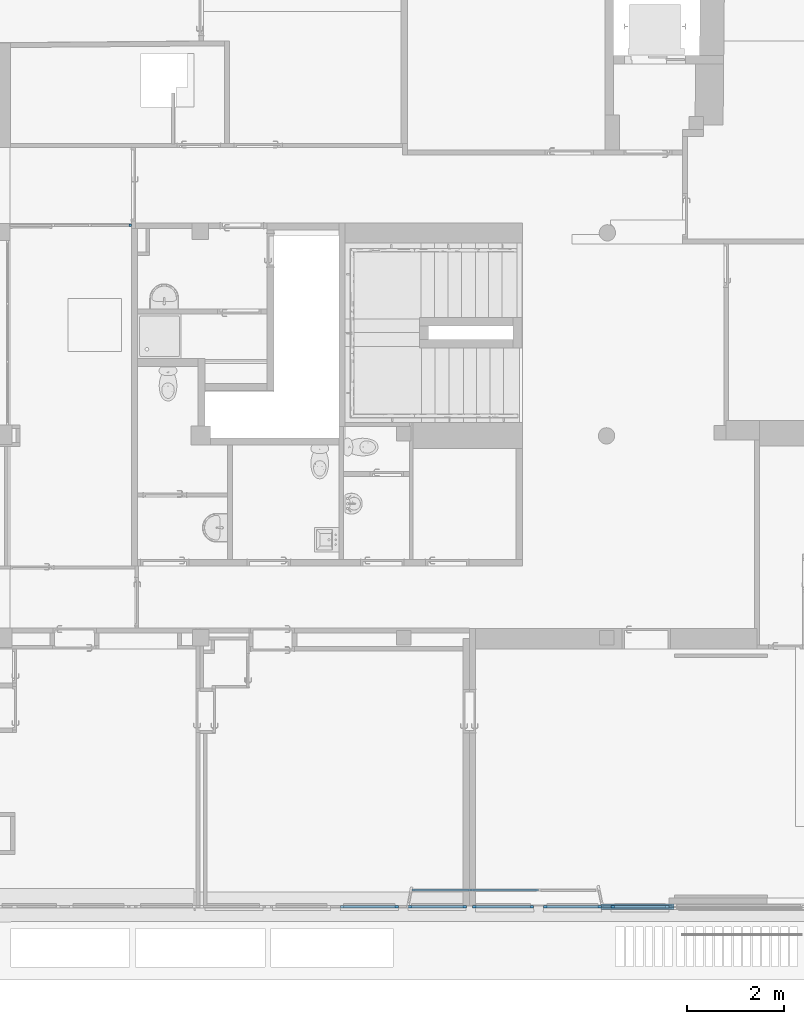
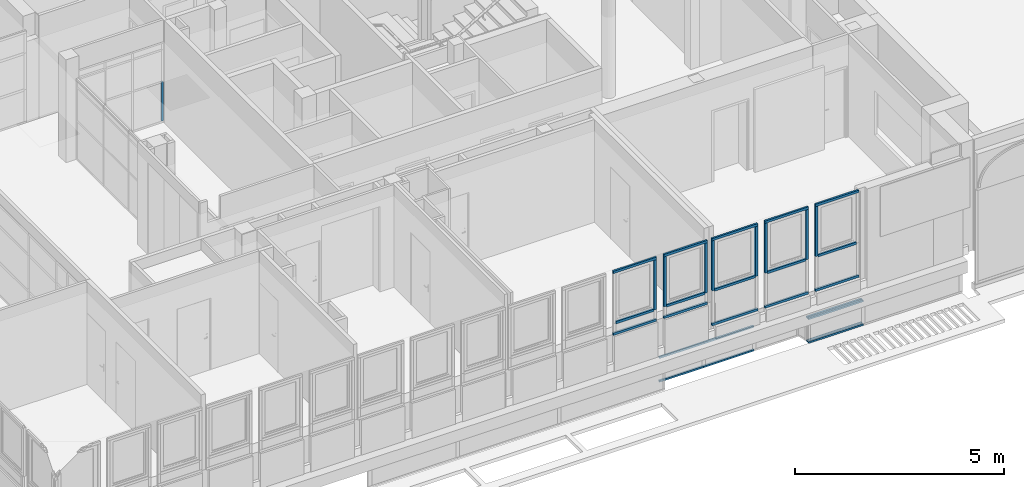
# One storey, part 8 of 97: 34 members, 10 elements without a shape of their own.
"""IFC4 building model written with IfcOpenShell, lengths in metres."""

from ifc_helpers import new_model, entity, si_unit, converted_unit, derived_unit, direction, frame, origin, place, context, subcontext, project, spatial, indexed_curve, outline, extrude, source, transform, mapped, material, type_object, type_shapes, element, aggregate, save


model = new_model("IFC4")

# Units and contexts
model_context = context("Model", 3, precision=1e-05, world=origin(), true_north=direction((6.12303176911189e-17, 1.0)))
body_context = subcontext(model_context, "Body", "Model", "MODEL_VIEW")
ifc_project = project(units=[si_unit("LENGTHUNIT", "METRE"), si_unit("AREAUNIT", "SQUARE_METRE"), si_unit("VOLUMEUNIT", "CUBIC_METRE"), converted_unit("PLANEANGLEUNIT", "DEGREE", entity("IfcRatioMeasure", 0.0174532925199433), si_unit("PLANEANGLEUNIT", "RADIAN"), dimensions=[0, 0, 0, 0, 0, 0, 0]), si_unit("MASSUNIT", "GRAM", prefix="KILO"), derived_unit("MASSDENSITYUNIT", [(si_unit("MASSUNIT", "GRAM", prefix="KILO"), 1), (si_unit("LENGTHUNIT", "METRE"), -3)]), derived_unit("MOMENTOFINERTIAUNIT", [(si_unit("LENGTHUNIT", "METRE"), 4)]), si_unit("TIMEUNIT", "SECOND"), si_unit("FREQUENCYUNIT", "HERTZ"), si_unit("THERMODYNAMICTEMPERATUREUNIT", "DEGREE_CELSIUS"), derived_unit("THERMALTRANSMITTANCEUNIT", [(si_unit("MASSUNIT", "GRAM", prefix="KILO"), 1), (si_unit("THERMODYNAMICTEMPERATUREUNIT", "KELVIN"), -1), (si_unit("TIMEUNIT", "SECOND"), -3)]), derived_unit("VOLUMETRICFLOWRATEUNIT", [(si_unit("LENGTHUNIT", "METRE"), 3), (si_unit("TIMEUNIT", "SECOND"), -1)]), si_unit("ELECTRICCURRENTUNIT", "AMPERE"), si_unit("ELECTRICVOLTAGEUNIT", "VOLT"), si_unit("POWERUNIT", "WATT"), si_unit("FORCEUNIT", "NEWTON", prefix="KILO"), si_unit("ILLUMINANCEUNIT", "LUX"), si_unit("LUMINOUSFLUXUNIT", "LUMEN"), si_unit("LUMINOUSINTENSITYUNIT", "CANDELA"), derived_unit("USERDEFINED", [(si_unit("MASSUNIT", "GRAM", prefix="KILO"), -1), (si_unit("LENGTHUNIT", "METRE"), -2), (si_unit("TIMEUNIT", "SECOND"), 3), (si_unit("LUMINOUSFLUXUNIT", "LUMEN"), 1)]), derived_unit("LINEARVELOCITYUNIT", [(si_unit("LENGTHUNIT", "METRE"), 1), (si_unit("TIMEUNIT", "SECOND"), -1)]), si_unit("PRESSUREUNIT", "PASCAL"), derived_unit("USERDEFINED", [(si_unit("LENGTHUNIT", "METRE"), -2), (si_unit("MASSUNIT", "GRAM", prefix="KILO"), 1), (si_unit("TIMEUNIT", "SECOND"), -2)]), derived_unit("LINEARFORCEUNIT", [(si_unit("MASSUNIT", "GRAM", prefix="KILO"), 1), (si_unit("LENGTHUNIT", "METRE"), 1), (si_unit("TIMEUNIT", "SECOND"), -2), (si_unit("LENGTHUNIT", "METRE"), -1)]), derived_unit("PLANARFORCEUNIT", [(si_unit("MASSUNIT", "GRAM", prefix="KILO"), 1), (si_unit("LENGTHUNIT", "METRE"), 1), (si_unit("TIMEUNIT", "SECOND"), -2), (si_unit("LENGTHUNIT", "METRE"), -2)])], contexts=[model_context])

# Site, building, storey
site_placement = place(None, origin())
site = spatial("IfcSite", under=ifc_project, at=site_placement, Name="Default", CompositionType="ELEMENT")
building_placement = place(site_placement, origin())
building = spatial("IfcBuilding", under=site, at=building_placement, Name="HOTEL CONSULAIRE BOULOGNE SUR MER", CompositionType="ELEMENT")
storey_placement = place(building_placement, frame((0.0, 0.0, 3.62152697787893)))
storey = spatial("IfcBuildingStorey", under=building, at=storey_placement, Name="Niveau 1", CompositionType="ELEMENT", Elevation=3.62152697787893)

# Curtain wall, member
curtain_wall_type = type_object("IfcCurtainWallType", Name="Mur-rideau:Simple panneau", PredefinedType="NOTDEFINED")
curtain_wall_1_placement = place(storey_placement, frame((0.0, 0.0, -3.62152697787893)))
curtain_wall_1 = element("IfcCurtainWall", 1, at=curtain_wall_1_placement, inside=storey, type_object=curtain_wall_type, Name="Mur-rideau:Simple panneau", ObjectType="Mur-rideau:Simple panneau", PredefinedType="NOTDEFINED")
ifc_material = material(Name="PVC - Blanc", Category="Plastique")
member_type_1 = type_object("IfcMemberType", Name="Meneau rectangulaire:50 x 25mm", PredefinedType="MULLION", material=ifc_material)
shared_shape_1 = source(origin(), body_context, "Body", "SweptSolid", [
    extrude(outline(indexed_curve([(-0.025, -0.025), (0.025, -0.025), (0.025, 0.025), (-0.025, 0.025), (-0.025, -0.025)], self_intersect=False)), frame((-0.025, -0.025, -1.517), z_axis=(0.0, 0.0, 1.0), x_axis=(0.0, -1.0, 0.0)), (0.0, 0.0, 1.0), 1.517),
])
type_shapes(member_type_1, [shared_shape_1])
member_1_placement = place(storey_placement, frame((7.04517677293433, -29.5980671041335, -1.3055269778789), z_axis=(-1.0, 0.0, 0.0), x_axis=(0.0, 0.0, -1.0)))
member_1 = element("IfcMember", 2, at=member_1_placement, type_object=member_type_1, material=ifc_material, Name="Meneau rectangulaire:50 x 25mm", ObjectType="Meneau rectangulaire:50 x 25mm", PredefinedType="MULLION", context=body_context, shape_type="MappedRepresentation", body=[
    mapped(shared_shape_1, transform((0.0, 0.0, 0.0), scale=1.0)),
])

curtain_wall_2_placement = place(storey_placement, frame((0.0, 0.0, -3.62152697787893)))
curtain_wall_2 = element("IfcCurtainWall", 3, at=curtain_wall_2_placement, inside=storey, type_object=curtain_wall_type, Name="Mur-rideau:Simple panneau", ObjectType="Mur-rideau:Simple panneau", PredefinedType="NOTDEFINED")
member_2_placement = place(storey_placement, frame((7.04517677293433, -29.6370671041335, -1.3055269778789), z_axis=(-1.0, 0.0, 0.0), x_axis=(0.0, 0.0, -1.0)))
member_2 = element("IfcMember", 4, at=member_2_placement, type_object=member_type_1, material=ifc_material, Name="Meneau rectangulaire:50 x 25mm", ObjectType="Meneau rectangulaire:50 x 25mm", PredefinedType="MULLION", context=body_context, shape_type="MappedRepresentation", body=[
    mapped(shared_shape_1, transform((0.0, 0.0, 0.0), scale=1.0)),
])

curtain_wall_3_placement = place(storey_placement, frame((0.0, 0.0, -3.62152697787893)))
curtain_wall_3 = element("IfcCurtainWall", 5, at=curtain_wall_3_placement, inside=storey, type_object=curtain_wall_type, Name="Mur-rideau:Simple panneau", ObjectType="Mur-rideau:Simple panneau", PredefinedType="NOTDEFINED")
member_3_placement = place(storey_placement, frame((7.04517677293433, -29.5723138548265, -1.3055269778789), z_axis=(-1.0, 0.0, 0.0), x_axis=(0.0, 0.0, -1.0)))
member_3 = element("IfcMember", 6, at=member_3_placement, type_object=member_type_1, material=ifc_material, Name="Meneau rectangulaire:50 x 25mm", ObjectType="Meneau rectangulaire:50 x 25mm", PredefinedType="MULLION", context=body_context, shape_type="MappedRepresentation", body=[
    mapped(shared_shape_1, transform((0.0, 0.0, 0.0), scale=1.0)),
])

# Member
member_type_2 = type_object("IfcMemberType", Name="Meneau rectangulaire:50 x 25mm", PredefinedType="MULLION", material=ifc_material)
shared_shape_2 = source(origin(), body_context, "Body", "SweptSolid", [
    extrude(outline(indexed_curve([(-0.025, -0.025), (0.025, -0.025), (0.025, 0.025), (-0.025, 0.025), (-0.025, -0.025)], self_intersect=False)), frame((-0.025, -0.025, -1.517), z_axis=(0.0, 0.0, 1.0), x_axis=(0.0, -1.0, 0.0)), (0.0, 0.0, 1.0), 1.517),
])
type_shapes(member_type_2, [shared_shape_2])
member_4_placement = place(storey_placement, frame((8.56217677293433, -29.5980671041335, -0.56300000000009), z_axis=(1.0, 0.0, 0.0), x_axis=(0.0, 0.0, 1.0)))
member_4 = element("IfcMember", 7, at=member_4_placement, type_object=member_type_2, material=ifc_material, Name="Meneau rectangulaire:50 x 25mm", ObjectType="Meneau rectangulaire:50 x 25mm", PredefinedType="MULLION", context=body_context, shape_type="MappedRepresentation", body=[
    mapped(shared_shape_2, transform((0.0, 0.0, 0.0), scale=1.0)),
])

aggregate(curtain_wall_1, [member_1, member_4])

member_5_placement = place(storey_placement, frame((8.56217677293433, -29.6370671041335, -0.56300000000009), z_axis=(1.0, 0.0, 0.0), x_axis=(0.0, 0.0, 1.0)))
member_5 = element("IfcMember", 8, at=member_5_placement, type_object=member_type_2, material=ifc_material, Name="Meneau rectangulaire:50 x 25mm", ObjectType="Meneau rectangulaire:50 x 25mm", PredefinedType="MULLION", context=body_context, shape_type="MappedRepresentation", body=[
    mapped(shared_shape_2, transform((0.0, 0.0, 0.0), scale=1.0)),
])

aggregate(curtain_wall_2, [member_2, member_5])

member_6_placement = place(storey_placement, frame((8.56217677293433, -29.5723138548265, -0.56300000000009), z_axis=(1.0, 0.0, 0.0), x_axis=(0.0, 0.0, 1.0)))
member_6 = element("IfcMember", 9, at=member_6_placement, type_object=member_type_2, material=ifc_material, Name="Meneau rectangulaire:50 x 25mm", ObjectType="Meneau rectangulaire:50 x 25mm", PredefinedType="MULLION", context=body_context, shape_type="MappedRepresentation", body=[
    mapped(shared_shape_2, transform((0.0, 0.0, 0.0), scale=1.0)),
])

aggregate(curtain_wall_3, [member_3, member_6])

# Curtain wall, members
curtain_wall_4_placement = place(storey_placement, frame((0.0, 0.0, -3.62152697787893)))
curtain_wall_4 = element("IfcCurtainWall", 10, at=curtain_wall_4_placement, inside=storey, type_object=curtain_wall_type, Name="Mur-rideau:Simple panneau", ObjectType="Mur-rideau:Simple panneau", PredefinedType="NOTDEFINED")
member_type_3 = type_object("IfcMemberType", Name="Meneau rectangulaire:50 x 25mm", PredefinedType="MULLION", material=ifc_material)
shared_shape_3 = source(origin(), body_context, "Body", "SweptSolid", [
    extrude(outline(indexed_curve([(-0.025, -0.025), (0.025, -0.025), (0.025, 0.025), (-0.025, 0.025), (-0.025, -0.025)], self_intersect=False)), frame((-0.025, -0.025, -1.226), z_axis=(0.0, 0.0, 1.0), x_axis=(0.0, -1.0, 0.0)), (0.0, 0.0, 1.0), 1.226),
])
type_shapes(member_type_3, [shared_shape_3])
member_7_placement = place(storey_placement, frame((3.13741738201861, -29.2557686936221, -1.3055269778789), z_axis=(-1.0, 0.0, 0.0), x_axis=(0.0, 0.0, -1.0)))
member_7 = element("IfcMember", 11, at=member_7_placement, type_object=member_type_3, material=ifc_material, Name="Meneau rectangulaire:50 x 25mm", ObjectType="Meneau rectangulaire:50 x 25mm", PredefinedType="MULLION", context=body_context, shape_type="MappedRepresentation", body=[
    mapped(shared_shape_3, transform((0.0, 0.0, 0.0), scale=1.0)),
])
member_type_4 = type_object("IfcMemberType", Name="Meneau rectangulaire:50 x 25mm", PredefinedType="MULLION", material=ifc_material)
shared_shape_4 = source(origin(), body_context, "Body", "SweptSolid", [
    extrude(outline(indexed_curve([(-0.025, -0.025), (0.025, -0.025), (0.025, 0.025), (-0.025, 0.025), (-0.025, -0.025)], self_intersect=False)), frame((-0.025, -0.025, -1.3947200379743), z_axis=(0.0, 0.0, 1.0), x_axis=(0.0, -1.0, 0.0)), (0.0, 0.0, 1.0), 1.3947200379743),
])
type_shapes(member_type_4, [shared_shape_4])
member_8_placement = place(storey_placement, frame((5.75813741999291, -29.2557686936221, -0.56300000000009), z_axis=(1.0, 0.0, 0.0), x_axis=(0.0, 0.0, 1.0)))
member_8 = element("IfcMember", 12, at=member_8_placement, type_object=member_type_4, material=ifc_material, Name="Meneau rectangulaire:50 x 25mm", ObjectType="Meneau rectangulaire:50 x 25mm", PredefinedType="MULLION", context=body_context, shape_type="MappedRepresentation", body=[
    mapped(shared_shape_4, transform((0.0, 0.0, 0.0), scale=1.0)),
])
member_type_5 = type_object("IfcMemberType", Name="Meneau rectangulaire:50 x 25mm", PredefinedType="MULLION", material=ifc_material)
shared_shape_5 = source(origin(), body_context, "Body", "SweptSolid", [
    extrude(outline(indexed_curve([(-0.025, -0.025), (0.025, -0.025), (0.025, 0.025), (-0.025, 0.025), (-0.025, -0.025)], self_intersect=False)), frame((-0.025, -0.025, -1.3947200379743), z_axis=(0.0, 0.0, 1.0), x_axis=(0.0, -1.0, 0.0)), (0.0, 0.0, 1.0), 1.3947200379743),
])
type_shapes(member_type_5, [shared_shape_5])
member_9_placement = place(storey_placement, frame((4.36341738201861, -29.2557686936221, -1.3055269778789), z_axis=(-1.0, 0.0, 0.0), x_axis=(0.0, 0.0, -1.0)))
member_9 = element("IfcMember", 13, at=member_9_placement, type_object=member_type_5, material=ifc_material, Name="Meneau rectangulaire:50 x 25mm", ObjectType="Meneau rectangulaire:50 x 25mm", PredefinedType="MULLION", context=body_context, shape_type="MappedRepresentation", body=[
    mapped(shared_shape_5, transform((0.0, 0.0, 0.0), scale=1.0)),
])
member_type_6 = type_object("IfcMemberType", Name="Meneau rectangulaire:50 x 25mm", PredefinedType="MULLION", material=ifc_material)
shared_shape_6 = source(origin(), body_context, "Body", "SweptSolid", [
    extrude(outline(indexed_curve([(-0.025, -0.025), (0.025, -0.025), (0.025, 0.025), (-0.025, 0.025), (-0.025, -0.025)], self_intersect=False)), frame((-0.025, -0.025, -1.226), z_axis=(0.0, 0.0, 1.0), x_axis=(0.0, -1.0, 0.0)), (0.0, 0.0, 1.0), 1.226),
])
type_shapes(member_type_6, [shared_shape_6])
member_10_placement = place(storey_placement, frame((4.36341738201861, -29.2557686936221, -0.56300000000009), z_axis=(1.0, 0.0, 0.0), x_axis=(0.0, 0.0, 1.0)))
member_10 = element("IfcMember", 14, at=member_10_placement, type_object=member_type_6, material=ifc_material, Name="Meneau rectangulaire:50 x 25mm", ObjectType="Meneau rectangulaire:50 x 25mm", PredefinedType="MULLION", context=body_context, shape_type="MappedRepresentation", body=[
    mapped(shared_shape_6, transform((0.0, 0.0, 0.0), scale=1.0)),
])
aggregate(curtain_wall_4, [member_7, member_8, member_9, member_10])

# Curtain wall, member
curtain_wall_5_placement = place(storey_placement, frame((0.0, 0.0, -3.62152697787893)))
curtain_wall_5 = element("IfcCurtainWall", 15, at=curtain_wall_5_placement, inside=storey, type_object=curtain_wall_type, Name="Mur-rideau:Simple panneau", ObjectType="Mur-rideau:Simple panneau", PredefinedType="NOTDEFINED")
member_type_7 = type_object("IfcMemberType", Name="Meneau rectangulaire:50 x 35", PredefinedType="MULLION", material=ifc_material)
shared_shape_7 = source(origin(), body_context, "Body", "SweptSolid", [
    extrude(outline(indexed_curve([(-0.025, -0.035), (0.025, -0.035), (0.025, 0.035), (-0.025, 0.035), (-0.025, -0.035)], self_intersect=False)), frame((-0.035, -0.025, -1.20000000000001), z_axis=(0.0, 0.0, 1.0), x_axis=(0.0, -1.0, 0.0)), (0.0, 0.0, 1.0), 1.20000000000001),
])
type_shapes(member_type_7, [shared_shape_7])
member_11_placement = place(storey_placement, frame((1.65858002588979, -29.5501047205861, 2.67047302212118), z_axis=(-1.0, 0.0, 0.0), x_axis=(0.0, 0.0, 1.0)))
member_11 = element("IfcMember", 16, at=member_11_placement, type_object=member_type_7, material=ifc_material, Name="Meneau rectangulaire:50 x 35", ObjectType="Meneau rectangulaire:50 x 35", PredefinedType="MULLION", context=body_context, shape_type="MappedRepresentation", body=[
    mapped(shared_shape_7, transform((0.0, 0.0, 0.0), scale=1.0)),
])

curtain_wall_6_placement = place(storey_placement, frame((0.0, 0.0, -3.62152697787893)))
curtain_wall_6 = element("IfcCurtainWall", 17, at=curtain_wall_6_placement, inside=storey, type_object=curtain_wall_type, Name="Mur-rideau:Simple panneau", ObjectType="Mur-rideau:Simple panneau", PredefinedType="NOTDEFINED")
member_12_placement = place(storey_placement, frame((5.85858002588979, -29.5501047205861, 2.67047302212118), z_axis=(-1.0, 0.0, 0.0), x_axis=(0.0, 0.0, 1.0)))
member_12 = element("IfcMember", 18, at=member_12_placement, type_object=member_type_7, material=ifc_material, Name="Meneau rectangulaire:50 x 35", ObjectType="Meneau rectangulaire:50 x 35", PredefinedType="MULLION", context=body_context, shape_type="MappedRepresentation", body=[
    mapped(shared_shape_7, transform((0.0, 0.0, 0.0), scale=1.0)),
])

curtain_wall_7_placement = place(storey_placement, frame((0.0, 0.0, -3.62152697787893)))
curtain_wall_7 = element("IfcCurtainWall", 19, at=curtain_wall_7_placement, inside=storey, type_object=curtain_wall_type, Name="Mur-rideau:Simple panneau", ObjectType="Mur-rideau:Simple panneau", PredefinedType="NOTDEFINED")
member_13_placement = place(storey_placement, frame((7.25858002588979, -29.5501047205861, 2.67047302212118), z_axis=(-1.0, 0.0, 0.0), x_axis=(0.0, 0.0, 1.0)))
member_13 = element("IfcMember", 20, at=member_13_placement, type_object=member_type_7, material=ifc_material, Name="Meneau rectangulaire:50 x 35", ObjectType="Meneau rectangulaire:50 x 35", PredefinedType="MULLION", context=body_context, shape_type="MappedRepresentation", body=[
    mapped(shared_shape_7, transform((0.0, 0.0, 0.0), scale=1.0)),
])

# Member
member_type_8 = type_object("IfcMemberType", Name="Meneau rectangulaire:50 x 35", PredefinedType="MULLION", material=ifc_material)
shared_shape_8 = source(origin(), body_context, "Body", "SweptSolid", [
    extrude(outline(indexed_curve([(-0.025, -0.035), (0.025, -0.035), (0.025, 0.035), (-0.025, 0.035), (-0.025, -0.035)], self_intersect=False)), frame((-0.035, -0.025, -1.20000000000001), z_axis=(0.0, 0.0, 1.0), x_axis=(0.0, -1.0, 0.0)), (0.0, 0.0, 1.0), 1.20000000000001),
])
type_shapes(member_type_8, [shared_shape_8])
member_14_placement = place(storey_placement, frame((2.85858002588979, -29.5501047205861, 0.791612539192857), z_axis=(1.0, 0.0, 0.0), x_axis=(0.0, 0.0, -1.0)))
member_14 = element("IfcMember", 21, at=member_14_placement, type_object=member_type_8, material=ifc_material, Name="Meneau rectangulaire:50 x 35", ObjectType="Meneau rectangulaire:50 x 35", PredefinedType="MULLION", context=body_context, shape_type="MappedRepresentation", body=[
    mapped(shared_shape_8, transform((0.0, 0.0, 0.0), scale=1.0)),
])

member_15_placement = place(storey_placement, frame((7.05858002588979, -29.5501047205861, 0.116102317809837), z_axis=(1.0, 0.0, 0.0), x_axis=(0.0, 0.0, -1.0)))
member_15 = element("IfcMember", 22, at=member_15_placement, type_object=member_type_8, material=ifc_material, Name="Meneau rectangulaire:50 x 35", ObjectType="Meneau rectangulaire:50 x 35", PredefinedType="MULLION", context=body_context, shape_type="MappedRepresentation", body=[
    mapped(shared_shape_8, transform((0.0, 0.0, 0.0), scale=1.0)),
])

member_16_placement = place(storey_placement, frame((8.45858002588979, -29.5501047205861, 0.116102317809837), z_axis=(1.0, 0.0, 0.0), x_axis=(0.0, 0.0, -1.0)))
member_16 = element("IfcMember", 23, at=member_16_placement, type_object=member_type_8, material=ifc_material, Name="Meneau rectangulaire:50 x 35", ObjectType="Meneau rectangulaire:50 x 35", PredefinedType="MULLION", context=body_context, shape_type="MappedRepresentation", body=[
    mapped(shared_shape_8, transform((0.0, 0.0, 0.0), scale=1.0)),
])

member_type_9 = type_object("IfcMemberType", Name="Meneau rectangulaire:50 x 35", PredefinedType="MULLION", material=ifc_material)
shared_shape_9 = source(origin(), body_context, "Body", "SweptSolid", [
    extrude(outline(indexed_curve([(-0.025, -0.035), (0.025, -0.035), (0.025, 0.035), (-0.025, 0.035), (-0.025, -0.035)], self_intersect=False)), frame((0.0, -0.025, -1.06000000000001), z_axis=(0.0, 0.0, 1.0), x_axis=(0.0, -1.0, 0.0)), (0.0, 0.0, 1.0), 1.06000000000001),
])
type_shapes(member_type_9, [shared_shape_9])
member_17_placement = place(storey_placement, frame((1.72858002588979, -29.5501047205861, 1.13961253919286), z_axis=(-1.0, 0.0, 0.0), x_axis=(0.0, 0.0, 1.0)))
member_17 = element("IfcMember", 24, at=member_17_placement, type_object=member_type_9, material=ifc_material, Name="Meneau rectangulaire:50 x 35", ObjectType="Meneau rectangulaire:50 x 35", PredefinedType="MULLION", context=body_context, shape_type="MappedRepresentation", body=[
    mapped(shared_shape_9, transform((0.0, 0.0, 0.0), scale=1.0)),
])

member_18_placement = place(storey_placement, frame((5.92858002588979, -29.5501047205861, 1.14010231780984), z_axis=(-1.0, 0.0, 0.0), x_axis=(0.0, 0.0, 1.0)))
member_18 = element("IfcMember", 25, at=member_18_placement, type_object=member_type_9, material=ifc_material, Name="Meneau rectangulaire:50 x 35", ObjectType="Meneau rectangulaire:50 x 35", PredefinedType="MULLION", context=body_context, shape_type="MappedRepresentation", body=[
    mapped(shared_shape_9, transform((0.0, 0.0, 0.0), scale=1.0)),
])

member_19_placement = place(storey_placement, frame((7.32858002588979, -29.5501047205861, 1.14010231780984), z_axis=(-1.0, 0.0, 0.0), x_axis=(0.0, 0.0, 1.0)))
member_19 = element("IfcMember", 26, at=member_19_placement, type_object=member_type_9, material=ifc_material, Name="Meneau rectangulaire:50 x 35", ObjectType="Meneau rectangulaire:50 x 35", PredefinedType="MULLION", context=body_context, shape_type="MappedRepresentation", body=[
    mapped(shared_shape_9, transform((0.0, 0.0, 0.0), scale=1.0)),
])

# Curtain wall, member
curtain_wall_8_placement = place(storey_placement, frame((0.0, 0.0, -3.62152697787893)))
curtain_wall_8 = element("IfcCurtainWall", 27, at=curtain_wall_8_placement, inside=storey, type_object=curtain_wall_type, Name="Mur-rideau:Simple panneau", ObjectType="Mur-rideau:Simple panneau", PredefinedType="NOTDEFINED")
member_type_10 = type_object("IfcMemberType", Name="Meneau rectangulaire:50 x 35", PredefinedType="MULLION", material=ifc_material)
shared_shape_10 = source(origin(), body_context, "Body", "SweptSolid", [
    extrude(outline(indexed_curve([(-0.025, -0.035), (0.025, -0.035), (0.025, 0.035), (-0.025, 0.035), (-0.025, -0.035)], self_intersect=False)), frame((-0.035, -0.025, -1.46086048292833), z_axis=(0.0, 0.0, 1.0), x_axis=(0.0, -1.0, 0.0)), (0.0, 0.0, 1.0), 1.46086048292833),
])
type_shapes(member_type_10, [shared_shape_10])
member_20_placement = place(storey_placement, frame((3.05858002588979, -29.5501047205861, 1.13961253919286), z_axis=(0.0, 0.0, -1.0), x_axis=(-1.0, 0.0, 0.0)))
member_20 = element("IfcMember", 28, at=member_20_placement, type_object=member_type_10, material=ifc_material, Name="Meneau rectangulaire:50 x 35", ObjectType="Meneau rectangulaire:50 x 35", PredefinedType="MULLION", context=body_context, shape_type="MappedRepresentation", body=[
    mapped(shared_shape_10, transform((0.0, 0.0, 0.0), scale=1.0)),
])

# Member
member_type_11 = type_object("IfcMemberType", Name="Meneau rectangulaire:50 x 35", PredefinedType="MULLION", material=ifc_material)
shared_shape_11 = source(origin(), body_context, "Body", "SweptSolid", [
    extrude(outline(indexed_curve([(-0.025, -0.035), (0.025, -0.035), (0.025, 0.035), (-0.025, 0.035), (-0.025, -0.035)], self_intersect=False)), frame((-0.035, -0.025, -1.46086048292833), z_axis=(0.0, 0.0, 1.0), x_axis=(0.0, -1.0, 0.0)), (0.0, 0.0, 1.0), 1.46086048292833),
])
type_shapes(member_type_11, [shared_shape_11])
member_21_placement = place(storey_placement, frame((2.85858002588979, -29.5501047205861, 2.60047302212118)))
member_21 = element("IfcMember", 29, at=member_21_placement, type_object=member_type_11, material=ifc_material, Name="Meneau rectangulaire:50 x 35", ObjectType="Meneau rectangulaire:50 x 35", PredefinedType="MULLION", context=body_context, shape_type="MappedRepresentation", body=[
    mapped(shared_shape_11, transform((0.0, 0.0, 0.0), scale=1.0)),
])

aggregate(curtain_wall_5, [member_21, member_11, member_14, member_17])

member_22_placement = place(storey_placement, frame((4.26858002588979, -29.5501047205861, 2.60047302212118)))
member_22 = element("IfcMember", 30, at=member_22_placement, type_object=member_type_11, material=ifc_material, Name="Meneau rectangulaire:50 x 35", ObjectType="Meneau rectangulaire:50 x 35", PredefinedType="MULLION", context=body_context, shape_type="MappedRepresentation", body=[
    mapped(shared_shape_11, transform((0.0, 0.0, 0.0), scale=1.0)),
])

member_type_12 = type_object("IfcMemberType", Name="Meneau rectangulaire:50 x 35", PredefinedType="MULLION", material=ifc_material)
shared_shape_12 = source(origin(), body_context, "Body", "SweptSolid", [
    extrude(outline(indexed_curve([(-0.025, -0.035), (0.025, -0.035), (0.025, 0.035), (-0.025, 0.035), (-0.025, -0.035)], self_intersect=False)), frame((-0.035, -0.025, -1.21), z_axis=(0.0, 0.0, 1.0), x_axis=(0.0, -1.0, 0.0)), (0.0, 0.0, 1.0), 1.21),
])
type_shapes(member_type_12, [shared_shape_12])
member_23_placement = place(storey_placement, frame((3.05858002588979, -29.5501047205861, 2.67047302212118), z_axis=(-1.0, 0.0, 0.0), x_axis=(0.0, 0.0, 1.0)))
member_23 = element("IfcMember", 31, at=member_23_placement, type_object=member_type_12, material=ifc_material, Name="Meneau rectangulaire:50 x 35", ObjectType="Meneau rectangulaire:50 x 35", PredefinedType="MULLION", context=body_context, shape_type="MappedRepresentation", body=[
    mapped(shared_shape_12, transform((0.0, 0.0, 0.0), scale=1.0)),
])

member_type_13 = type_object("IfcMemberType", Name="Meneau rectangulaire:50 x 35", PredefinedType="MULLION", material=ifc_material)
shared_shape_13 = source(origin(), body_context, "Body", "SweptSolid", [
    extrude(outline(indexed_curve([(-0.025, -0.035), (0.025, -0.035), (0.025, 0.035), (-0.025, 0.035), (-0.025, -0.035)], self_intersect=False)), frame((-0.035, -0.025, -1.21), z_axis=(0.0, 0.0, 1.0), x_axis=(0.0, -1.0, 0.0)), (0.0, 0.0, 1.0), 1.21),
])
type_shapes(member_type_13, [shared_shape_13])
member_24_placement = place(storey_placement, frame((4.26858002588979, -29.5501047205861, 0.791612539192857), z_axis=(1.0, 0.0, 0.0), x_axis=(0.0, 0.0, -1.0)))
member_24 = element("IfcMember", 32, at=member_24_placement, type_object=member_type_13, material=ifc_material, Name="Meneau rectangulaire:50 x 35", ObjectType="Meneau rectangulaire:50 x 35", PredefinedType="MULLION", context=body_context, shape_type="MappedRepresentation", body=[
    mapped(shared_shape_13, transform((0.0, 0.0, 0.0), scale=1.0)),
])

member_type_14 = type_object("IfcMemberType", Name="Meneau rectangulaire:50 x 35", PredefinedType="MULLION", material=ifc_material)
shared_shape_14 = source(origin(), body_context, "Body", "SweptSolid", [
    extrude(outline(indexed_curve([(-0.025, -0.035), (0.025, -0.035), (0.025, 0.035), (-0.025, 0.035), (-0.025, -0.035)], self_intersect=False)), frame((0.0, -0.025, -1.07), z_axis=(0.0, 0.0, 1.0), x_axis=(0.0, -1.0, 0.0)), (0.0, 0.0, 1.0), 1.07),
])
type_shapes(member_type_14, [shared_shape_14])
member_25_placement = place(storey_placement, frame((3.12858002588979, -29.5501047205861, 1.13961253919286), z_axis=(-1.0, 0.0, 0.0), x_axis=(0.0, 0.0, 1.0)))
member_25 = element("IfcMember", 33, at=member_25_placement, type_object=member_type_14, material=ifc_material, Name="Meneau rectangulaire:50 x 35", ObjectType="Meneau rectangulaire:50 x 35", PredefinedType="MULLION", context=body_context, shape_type="MappedRepresentation", body=[
    mapped(shared_shape_14, transform((0.0, 0.0, 0.0), scale=1.0)),
])

aggregate(curtain_wall_8, [member_22, member_23, member_24, member_25, member_20])

# Curtain wall, member
curtain_wall_9_placement = place(storey_placement, frame((0.0, 0.0, -3.62152697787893)))
curtain_wall_9 = element("IfcCurtainWall", 34, at=curtain_wall_9_placement, inside=storey, type_object=curtain_wall_type, Name="Mur-rideau:Simple panneau", ObjectType="Mur-rideau:Simple panneau", PredefinedType="NOTDEFINED")
member_type_15 = type_object("IfcMemberType", Name="Meneau rectangulaire:50 x 35", PredefinedType="MULLION", material=ifc_material)
shared_shape_15 = source(origin(), body_context, "Body", "SweptSolid", [
    extrude(outline(indexed_curve([(-0.025, -0.035), (0.025, -0.035), (0.025, 0.035), (-0.025, 0.035), (-0.025, -0.035)], self_intersect=False)), frame((-0.035, -0.025, -1.46037070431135), z_axis=(0.0, 0.0, 1.0), x_axis=(0.0, -1.0, 0.0)), (0.0, 0.0, 1.0), 1.46037070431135),
])
type_shapes(member_type_15, [shared_shape_15])
member_26_placement = place(storey_placement, frame((5.65858002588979, -29.5501047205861, 2.60047302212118)))
member_26 = element("IfcMember", 35, at=member_26_placement, type_object=member_type_15, material=ifc_material, Name="Meneau rectangulaire:50 x 35", ObjectType="Meneau rectangulaire:50 x 35", PredefinedType="MULLION", context=body_context, shape_type="MappedRepresentation", body=[
    mapped(shared_shape_15, transform((0.0, 0.0, 0.0), scale=1.0)),
])

# Member
member_27_placement = place(storey_placement, frame((7.05858002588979, -29.5501047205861, 2.60047302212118)))
member_27 = element("IfcMember", 36, at=member_27_placement, type_object=member_type_15, material=ifc_material, Name="Meneau rectangulaire:50 x 35", ObjectType="Meneau rectangulaire:50 x 35", PredefinedType="MULLION", context=body_context, shape_type="MappedRepresentation", body=[
    mapped(shared_shape_15, transform((0.0, 0.0, 0.0), scale=1.0)),
])

member_type_16 = type_object("IfcMemberType", Name="Meneau rectangulaire:50 x 35", PredefinedType="MULLION", material=ifc_material)
shared_shape_16 = source(origin(), body_context, "Body", "SweptSolid", [
    extrude(outline(indexed_curve([(-0.025, -0.035), (0.025, -0.035), (0.025, 0.035), (-0.025, 0.035), (-0.025, -0.035)], self_intersect=False)), frame((-0.035, -0.025, -1.265), z_axis=(0.0, 0.0, 1.0), x_axis=(0.0, -1.0, 0.0)), (0.0, 0.0, 1.0), 1.265),
])
type_shapes(member_type_16, [shared_shape_16])
member_28_placement = place(storey_placement, frame((4.39358002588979, -29.5501047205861, 2.67047302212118), z_axis=(-1.0, 0.0, 0.0), x_axis=(0.0, 0.0, 1.0)))
member_28 = element("IfcMember", 37, at=member_28_placement, type_object=member_type_16, material=ifc_material, Name="Meneau rectangulaire:50 x 35", ObjectType="Meneau rectangulaire:50 x 35", PredefinedType="MULLION", context=body_context, shape_type="MappedRepresentation", body=[
    mapped(shared_shape_16, transform((0.0, 0.0, 0.0), scale=1.0)),
])

member_type_17 = type_object("IfcMemberType", Name="Meneau rectangulaire:50 x 35", PredefinedType="MULLION", material=ifc_material)
shared_shape_17 = source(origin(), body_context, "Body", "SweptSolid", [
    extrude(outline(indexed_curve([(-0.025, -0.035), (0.025, -0.035), (0.025, 0.035), (-0.025, 0.035), (-0.025, -0.035)], self_intersect=False)), frame((-0.035, -0.025, -1.265), z_axis=(0.0, 0.0, 1.0), x_axis=(0.0, -1.0, 0.0)), (0.0, 0.0, 1.0), 1.265),
])
type_shapes(member_type_17, [shared_shape_17])
member_29_placement = place(storey_placement, frame((5.65858002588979, -29.5501047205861, 0.116102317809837), z_axis=(1.0, 0.0, 0.0), x_axis=(0.0, 0.0, -1.0)))
member_29 = element("IfcMember", 38, at=member_29_placement, type_object=member_type_17, material=ifc_material, Name="Meneau rectangulaire:50 x 35", ObjectType="Meneau rectangulaire:50 x 35", PredefinedType="MULLION", context=body_context, shape_type="MappedRepresentation", body=[
    mapped(shared_shape_17, transform((0.0, 0.0, 0.0), scale=1.0)),
])

member_type_18 = type_object("IfcMemberType", Name="Meneau rectangulaire:50 x 35", PredefinedType="MULLION", material=ifc_material)
shared_shape_18 = source(origin(), body_context, "Body", "SweptSolid", [
    extrude(outline(indexed_curve([(-0.025, -0.035), (0.025, -0.035), (0.025, 0.035), (-0.025, 0.035), (-0.025, -0.035)], self_intersect=False)), frame((0.0, -0.025, -1.125), z_axis=(0.0, 0.0, 1.0), x_axis=(0.0, -1.0, 0.0)), (0.0, 0.0, 1.0), 1.125),
])
type_shapes(member_type_18, [shared_shape_18])
member_30_placement = place(storey_placement, frame((4.46358002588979, -29.5501047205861, 1.14010231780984), z_axis=(-1.0, 0.0, 0.0), x_axis=(0.0, 0.0, 1.0)))
member_30 = element("IfcMember", 39, at=member_30_placement, type_object=member_type_18, material=ifc_material, Name="Meneau rectangulaire:50 x 35", ObjectType="Meneau rectangulaire:50 x 35", PredefinedType="MULLION", context=body_context, shape_type="MappedRepresentation", body=[
    mapped(shared_shape_18, transform((0.0, 0.0, 0.0), scale=1.0)),
])

member_type_19 = type_object("IfcMemberType", Name="Meneau rectangulaire:50 x 35", PredefinedType="MULLION", material=ifc_material)
shared_shape_19 = source(origin(), body_context, "Body", "SweptSolid", [
    extrude(outline(indexed_curve([(-0.025, -0.035), (0.025, -0.035), (0.025, 0.035), (-0.025, 0.035), (-0.025, -0.035)], self_intersect=False)), frame((-0.035, -0.025, -1.46037070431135), z_axis=(0.0, 0.0, 1.0), x_axis=(0.0, -1.0, 0.0)), (0.0, 0.0, 1.0), 1.46037070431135),
])
type_shapes(member_type_19, [shared_shape_19])
member_31_placement = place(storey_placement, frame((4.39358002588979, -29.5501047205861, 1.14010231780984), z_axis=(0.0, 0.0, -1.0), x_axis=(-1.0, 0.0, 0.0)))
member_31 = element("IfcMember", 40, at=member_31_placement, type_object=member_type_19, material=ifc_material, Name="Meneau rectangulaire:50 x 35", ObjectType="Meneau rectangulaire:50 x 35", PredefinedType="MULLION", context=body_context, shape_type="MappedRepresentation", body=[
    mapped(shared_shape_19, transform((0.0, 0.0, 0.0), scale=1.0)),
])

aggregate(curtain_wall_9, [member_26, member_28, member_29, member_30, member_31])

member_32_placement = place(storey_placement, frame((5.85858002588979, -29.5501047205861, 1.14010231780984), z_axis=(0.0, 0.0, -1.0), x_axis=(-1.0, 0.0, 0.0)))
member_32 = element("IfcMember", 41, at=member_32_placement, type_object=member_type_19, material=ifc_material, Name="Meneau rectangulaire:50 x 35", ObjectType="Meneau rectangulaire:50 x 35", PredefinedType="MULLION", context=body_context, shape_type="MappedRepresentation", body=[
    mapped(shared_shape_19, transform((0.0, 0.0, 0.0), scale=1.0)),
])

aggregate(curtain_wall_6, [member_27, member_12, member_15, member_18, member_32])

member_33_placement = place(storey_placement, frame((7.25858002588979, -29.5501047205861, 1.14010231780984), z_axis=(0.0, 0.0, -1.0), x_axis=(-1.0, 0.0, 0.0)))
member_33 = element("IfcMember", 42, at=member_33_placement, type_object=member_type_19, material=ifc_material, Name="Meneau rectangulaire:50 x 35", ObjectType="Meneau rectangulaire:50 x 35", PredefinedType="MULLION", context=body_context, shape_type="MappedRepresentation", body=[
    mapped(shared_shape_19, transform((0.0, 0.0, 0.0), scale=1.0)),
])

aggregate(curtain_wall_7, [member_13, member_16, member_19, member_33])

# Curtain wall, member
curtain_wall_10_placement = place(storey_placement, frame((0.0, 0.0, -3.62152697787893)))
curtain_wall_10 = element("IfcCurtainWall", 43, at=curtain_wall_10_placement, inside=storey, type_object=curtain_wall_type, Name="Mur-rideau:Simple panneau", ObjectType="Mur-rideau:Simple panneau", PredefinedType="NOTDEFINED")
member_type_20 = type_object("IfcMemberType", Name="Meneau rectangulaire:50 x 25mm", PredefinedType="MULLION", material=ifc_material)
shared_shape_20 = source(origin(), body_context, "Body", "SweptSolid", [
    extrude(outline(indexed_curve([(-0.025, -0.025), (0.025, -0.025), (0.025, 0.025), (-0.025, 0.025), (-0.025, -0.025)], self_intersect=False)), frame((-0.025, -0.025, -1.14739646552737), z_axis=(0.0, 0.0, 1.0), x_axis=(0.0, -1.0, 0.0)), (0.0, 0.0, 1.0), 1.14739646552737),
])
type_shapes(member_type_20, [shared_shape_20])
member_34_placement = place(storey_placement, frame((-2.66052868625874, -15.5068590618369, 0.05), z_axis=(0.0, 0.0, -1.0), x_axis=(1.0, 0.0, 0.0)))
member_34 = element("IfcMember", 44, at=member_34_placement, type_object=member_type_20, material=ifc_material, Name="Meneau rectangulaire:50 x 25mm", ObjectType="Meneau rectangulaire:50 x 25mm", PredefinedType="MULLION", context=body_context, shape_type="MappedRepresentation", body=[
    mapped(shared_shape_20, transform((0.0, 0.0, 0.0), scale=1.0)),
])
aggregate(curtain_wall_10, [member_34])

save(model, "model.ifc")
